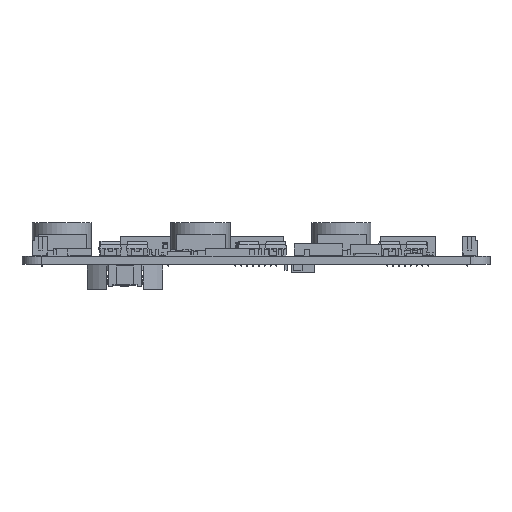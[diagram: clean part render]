
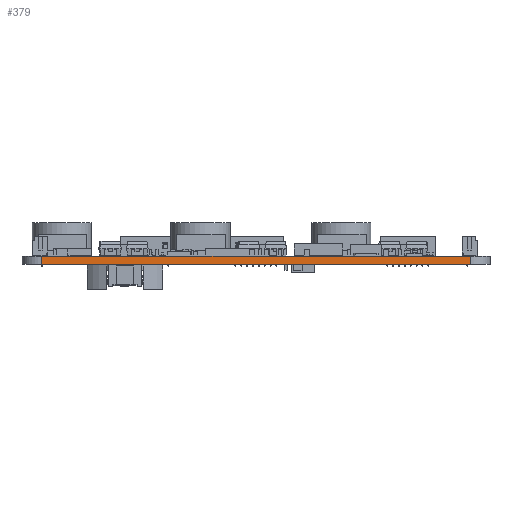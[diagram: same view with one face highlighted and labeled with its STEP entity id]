
A CAD part, left-side view. The second image highlights one B-rep face of the part: STEP entity #379.
In plain terms, the highlighted planar face has unit normal (-1, 0, 0).
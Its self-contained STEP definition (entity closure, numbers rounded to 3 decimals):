
#352 = VERTEX_POINT('',#353);
#353 = CARTESIAN_POINT('',(0.,4.15,1.726));
#360 = EDGE_CURVE('',#361,#352,#363,.T.);
#361 = VERTEX_POINT('',#362);
#362 = CARTESIAN_POINT('',(0.,4.15,0.));
#363 = LINE('',#364,#365);
#364 = CARTESIAN_POINT('',(0.,4.15,0.));
#365 = VECTOR('',#366,1.);
#366 = DIRECTION('',(0.,0.,1.));
#379 = ADVANCED_FACE('',(#380),#405,.T.);
#380 = FACE_BOUND('',#381,.T.);
#381 = EDGE_LOOP('',(#382,#383,#391,#399));
#382 = ORIENTED_EDGE('',*,*,#360,.T.);
#383 = ORIENTED_EDGE('',*,*,#384,.T.);
#384 = EDGE_CURVE('',#352,#385,#387,.T.);
#385 = VERTEX_POINT('',#386);
#386 = CARTESIAN_POINT('',(0.,95.758,
    1.726));
#387 = LINE('',#388,#389);
#388 = CARTESIAN_POINT('',(0.,4.15,1.726));
#389 = VECTOR('',#390,1.);
#390 = DIRECTION('',(0.,1.,0.));
#391 = ORIENTED_EDGE('',*,*,#392,.F.);
#392 = EDGE_CURVE('',#393,#385,#395,.T.);
#393 = VERTEX_POINT('',#394);
#394 = CARTESIAN_POINT('',(0.,95.758,0.)
  );
#395 = LINE('',#396,#397);
#396 = CARTESIAN_POINT('',(0.,95.758,0.)
  );
#397 = VECTOR('',#398,1.);
#398 = DIRECTION('',(0.,0.,1.));
#399 = ORIENTED_EDGE('',*,*,#400,.F.);
#400 = EDGE_CURVE('',#361,#393,#401,.T.);
#401 = LINE('',#402,#403);
#402 = CARTESIAN_POINT('',(0.,4.15,0.));
#403 = VECTOR('',#404,1.);
#404 = DIRECTION('',(0.,1.,0.));
#405 = PLANE('',#406);
#406 = AXIS2_PLACEMENT_3D('',#407,#408,#409);
#407 = CARTESIAN_POINT('',(0.,4.15,0.));
#408 = DIRECTION('',(-1.,0.,0.));
#409 = DIRECTION('',(0.,1.,0.));
